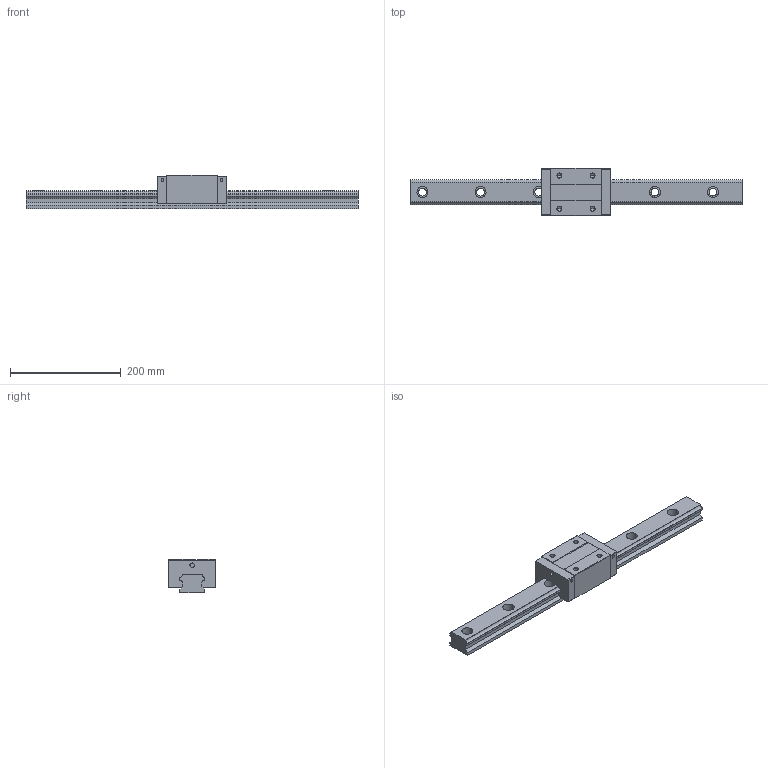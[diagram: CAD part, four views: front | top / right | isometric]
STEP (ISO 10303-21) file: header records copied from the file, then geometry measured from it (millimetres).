
FILE_DESCRIPTION (( 'STEP AP203' ), '1' );
FILE_NAME ('TRS45VN-XN.STEP', '2024-06-12T08:44:03', ( '' ), ( '' ), 'SwSTEP 2.0', 'SolidWorks 2022', '' );
FILE_SCHEMA (( 'CONFIG_CONTROL_DESIGN' ));
Length unit declared in the file: millimetre
Products named in the file (1): TRS45VN-XN
Bounding box: 600 x 85.5 x 60 mm (x, y, z)
Volume: 1134090.8 mm3; surface area: 156598.6 mm2
Topology: 2 solids, 2 shells, 180 faces, 472 edges, 304 vertices
Faces by surface type: plane 84, cylinder 80, cone 16
Entity records: 5607 total; most frequent: DIRECTION 994, CARTESIAN_POINT 949, ORIENTED_EDGE 928, EDGE_CURVE 464, AXIS2_PLACEMENT_3D 349, VERTEX_POINT 304, VECTOR 296, LINE 296
